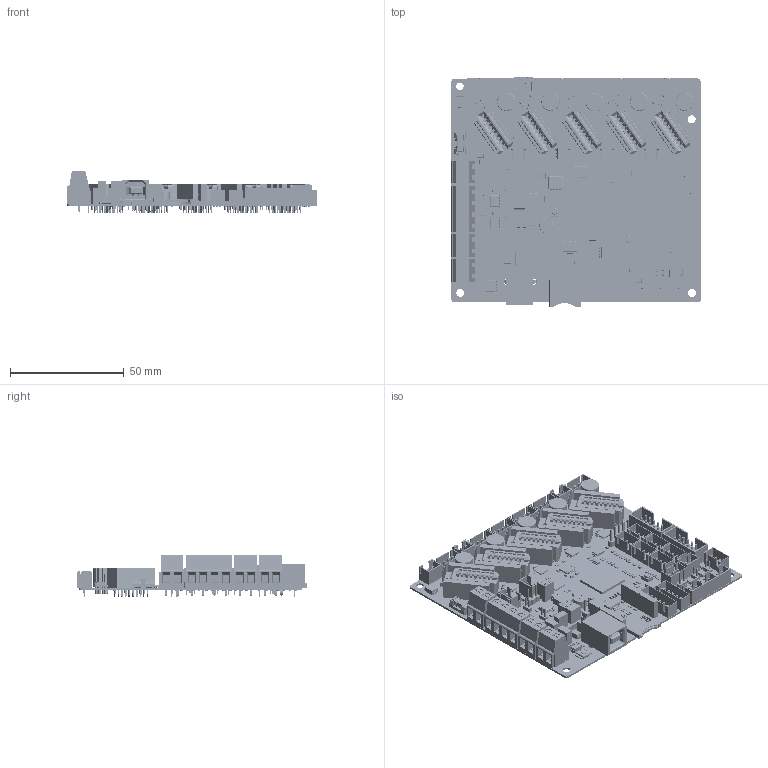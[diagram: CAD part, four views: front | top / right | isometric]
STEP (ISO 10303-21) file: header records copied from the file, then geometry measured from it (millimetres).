
FILE_DESCRIPTION(('Open CASCADE Model'),'2;1');
FILE_NAME('Open CASCADE Shape Model','2022-05-20T09:33:56',('Author'),( 'Open CASCADE'),'Open CASCADE STEP processor 6.8','Open CASCADE 6.8' ,'Unknown');
FILE_SCHEMA(('AUTOMOTIVE_DESIGN { 1 0 10303 214 1 1 1 1 }'));
Length unit declared in the file: millimetre
Products named in the file (445): PCB; Board; Open CASCADE STEP translator 6.8 1.1.1; RP1; 111; 3D_PCB4_2022-01-19.step; U1.step; RES-ARRAY-SMD_0402-8P-L2.0-W1.0-BL.step; COMPOUND.step; R82; R_0603; LOGO?; J31; XH2.54-2P; C23; C_0603; C15; 111_427450730; 3D_PCB4_2022-01-20.step; CAP-TH_BD8.0-P3.50-D0.6-FD.step; SOLID.step; U13; TSSOP14; TSSOP14_呿极; ﾒｽﾅ_0.9; LOGO?0.25; R20; P31; HDR2.54-1P; P28; P27; P21; P17; C62; C61; R86; P22; 1001-2; Q1; lfpak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
Assembly tree (1029 placements, depth 7):
  PCB
    Board
      Open CASCADE STEP translator 6.8 1.1.1
    RP1
      111
        3D_PCB4_2022-01-19.step
          U1.step
            RES-ARRAY-SMD_0402-8P-L2.0-W1.0-BL.step
              COMPOUND.step
    R82
      R_0603
        R_0603
        LOGO?
    J31
      XH2.54-2P
        XH2.54-2P
        LOGO?
    C23
      C_0603
        LOGO?
        C_0603
    C15
      111_427450730
        3D_PCB4_2022-01-20.step
          U1.step
            CAP-TH_BD8.0-P3.50-D0.6-FD.step
              SOLID.step
    U13
      TSSOP14
        TSSOP14_呿极
        ﾒｽﾅ_0.9  x14
        LOGO?0.25
    R20
      R_0603
        R_0603
        LOGO?
    P31
      HDR2.54-1P  x3
        HDR2.54-1P
        LOGO?
    P28
      HDR2.54-1P  x3
        HDR2.54-1P
        LOGO?
    P27
      HDR2.54-1P  x3
        HDR2.54-1P
        LOGO?
    P21
      HDR2.54-1P  x3
        HDR2.54-1P
        LOGO?
    P17
      HDR2.54-1P  x3
        HDR2.54-1P
        LOGO?
    C62
      C_0603
        LOGO?
        C_0603
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Bounding box: 109.67 x 100.67 x 18.18 mm (x, y, z)
Volume: 37112 mm3; surface area: 83992.2 mm2
Topology: 1560 solids, 1701 shells, 35892 faces, 89661 edges, 58136 vertices
Faces by surface type: plane 21856, bspline 8053, cylinder 4816, torus 636, sphere 514, cone 17
Full cylindrical faces by diameter (mm): 0.3 x4, 0.75 x106, 0.9 x40, 0.965 x42, 1 x239, 1.067 x4, 1.4 x10, 1.65 x2, 2.591 x2, 3.3 x1, 3.454 x3
Entity records: 436404 total; most frequent: CARTESIAN_POINT 156533, ORIENTED_EDGE 48712, DIRECTION 42030, EDGE_CURVE 24689, LINE 18310, VECTOR 18310, VERTEX_POINT 16404, AXIS2_PLACEMENT_3D 11860
